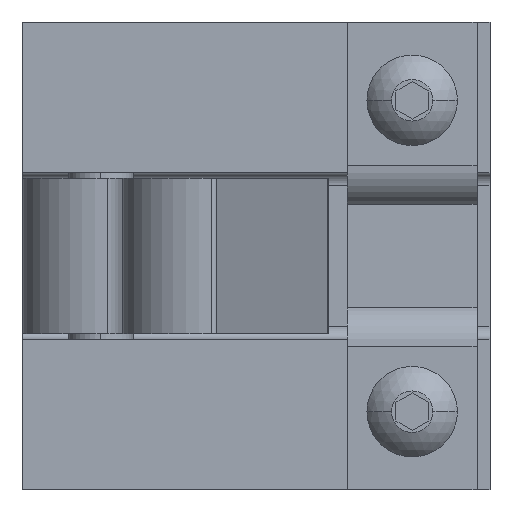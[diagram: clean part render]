
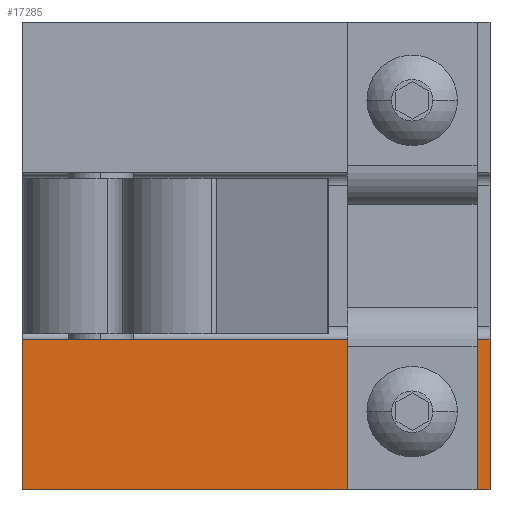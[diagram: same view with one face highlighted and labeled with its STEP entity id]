
A CAD part, left-side view. The second image highlights one B-rep face of the part: STEP entity #17285.
In plain terms, the highlighted planar face has unit normal (-1, 0, 0).
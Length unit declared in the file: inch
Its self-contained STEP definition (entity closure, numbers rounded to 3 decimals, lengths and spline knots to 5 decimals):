
#908 = CARTESIAN_POINT ( 'NONE',  ( 2.43951, 3.75404, -1.525 ) ) ;
#909 = FACE_BOUND ( 'NONE', #17286, .T. ) ;
#912 = DIRECTION ( 'NONE',  ( 0., -1., 0. ) ) ;
#913 = VECTOR ( 'NONE', #912, 39.37008 ) ;
#914 = CARTESIAN_POINT ( 'NONE',  ( 2.43951, 3.75404, -1.525 ) ) ;
#917 = LINE ( 'NONE', #914, #913 ) ;
#1055 = DIRECTION ( 'NONE',  ( 0., 0., 1. ) ) ;
#1056 = DIRECTION ( 'NONE',  ( -1., 0., 0. ) ) ;
#1057 = CARTESIAN_POINT ( 'NONE',  ( 2.43951, 3.75404, -2.25 ) ) ;
#1058 = AXIS2_PLACEMENT_3D ( 'NONE', #1057, #1056, #1055 ) ;
#1059 = PLANE ( 'NONE',  #1058 ) ;
#1060 = FACE_OUTER_BOUND ( 'NONE', #17238, .T. ) ;
#1067 = DIRECTION ( 'NONE',  ( 0., 0., 1. ) ) ;
#1068 = VECTOR ( 'NONE', #1067, 39.37008 ) ;
#1069 = CARTESIAN_POINT ( 'NONE',  ( 2.43951, 3.75404, -2.25 ) ) ;
#1079 = DIRECTION ( 'NONE',  ( -1., 0., 0. ) ) ;
#1083 = DIRECTION ( 'NONE',  ( 0., 0., 1. ) ) ;
#1089 = CIRCLE ( 'NONE', #1186, 0.125 ) ;
#1155 = LINE ( 'NONE', #1069, #1068 ) ;
#1167 = CARTESIAN_POINT ( 'NONE',  ( 2.43951, 3.75404, -2.25 ) ) ;
#1186 = AXIS2_PLACEMENT_3D ( 'NONE', #1221, #1079, #1083 ) ;
#1214 = DIRECTION ( 'NONE',  ( 0., -1., 0. ) ) ;
#1215 = VECTOR ( 'NONE', #1214, 39.37008 ) ;
#1216 = CARTESIAN_POINT ( 'NONE',  ( 2.43951, 3.75404, -2.25 ) ) ;
#1217 = LINE ( 'NONE', #1216, #1215 ) ;
#1221 = CARTESIAN_POINT ( 'NONE',  ( 2.43951, 4.12904, -1.875 ) ) ;
#16169 = VERTEX_POINT ( 'NONE', #21051 ) ;
#16186 = VERTEX_POINT ( 'NONE', #21002 ) ;
#16253 = EDGE_CURVE ( 'NONE', #16186, #16169, #20480, .T. ) ;
#16319 = EDGE_CURVE ( 'NONE', #16353, #16320, #20717, .T. ) ;
#16320 = VERTEX_POINT ( 'NONE', #20718 ) ;
#16353 = VERTEX_POINT ( 'NONE', #20805 ) ;
#17237 = ORIENTED_EDGE ( 'NONE', *, *, #16319, .F. ) ;
#17238 = EDGE_LOOP ( 'NONE', ( #17280, #17269, #17270, #17323 ) ) ;
#17269 = ORIENTED_EDGE ( 'NONE', *, *, #16253, .F. ) ;
#17270 = ORIENTED_EDGE ( 'NONE', *, *, #17321, .T. ) ;
#17280 = ORIENTED_EDGE ( 'NONE', *, *, #17281, .F. ) ;
#17281 = EDGE_CURVE ( 'NONE', #16169, #17282, #917, .T. ) ;
#17282 = VERTEX_POINT ( 'NONE', #908 ) ;
#17285 = ADVANCED_FACE ( 'NONE', ( #909, #1060 ), #1059, .T. ) ;
#17286 = EDGE_LOOP ( 'NONE', ( #17319, #17237 ) ) ;
#17319 = ORIENTED_EDGE ( 'NONE', *, *, #17320, .F. ) ;
#17320 = EDGE_CURVE ( 'NONE', #16320, #16353, #1089, .T. ) ;
#17321 = EDGE_CURVE ( 'NONE', #16186, #17322, #1217, .T. ) ;
#17322 = VERTEX_POINT ( 'NONE', #1167 ) ;
#17323 = ORIENTED_EDGE ( 'NONE', *, *, #17324, .T. ) ;
#17324 = EDGE_CURVE ( 'NONE', #17322, #17282, #1155, .T. ) ;
#20476 = DIRECTION ( 'NONE',  ( 0., 0., 1. ) ) ;
#20477 = VECTOR ( 'NONE', #20476, 39.37008 ) ;
#20478 = CARTESIAN_POINT ( 'NONE',  ( 2.43951, 6.00404, -2.25 ) ) ;
#20480 = LINE ( 'NONE', #20478, #20477 ) ;
#20713 = DIRECTION ( 'NONE',  ( 0., 0., 1. ) ) ;
#20714 = DIRECTION ( 'NONE',  ( -1., 0., 0. ) ) ;
#20715 = CARTESIAN_POINT ( 'NONE',  ( 2.43951, 4.12904, -1.875 ) ) ;
#20716 = AXIS2_PLACEMENT_3D ( 'NONE', #20715, #20714, #20713 ) ;
#20717 = CIRCLE ( 'NONE', #20716, 0.125 ) ;
#20718 = CARTESIAN_POINT ( 'NONE',  ( 2.43951, 4.12904, -1.75 ) ) ;
#20805 = CARTESIAN_POINT ( 'NONE',  ( 2.43951, 4.12904, -2. ) ) ;
#21002 = CARTESIAN_POINT ( 'NONE',  ( 2.43951, 6.00404, -2.25 ) ) ;
#21051 = CARTESIAN_POINT ( 'NONE',  ( 2.43951, 6.00404, -1.525 ) ) ;
